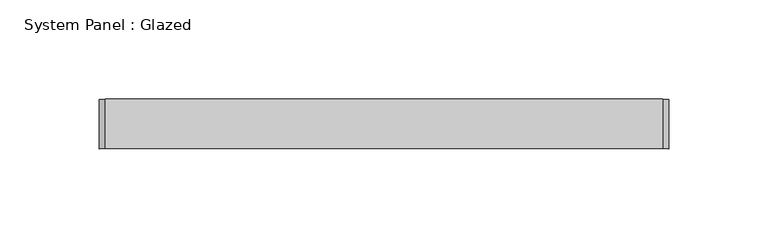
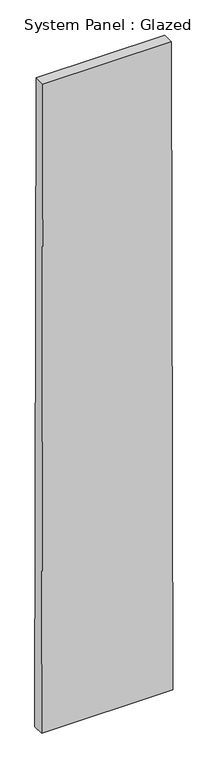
"""IFC4 building model written with IfcOpenShell, lengths in millimetres: plate geometry, System Panel : Glazed."""

from ifc_helpers import new_model, si_unit, frame, origin, place, context, project, spatial, polyline, outline, extrude, source, transform, mapped, element, save


def system_panel_glazed_5e446c14(model_context):
    return source(origin(), model_context, "Body", "SweptSolid", [
        extrude(outline(polyline([(0.0, -143.7537738), (0.0, 143.7537738), (1499.9966104, 140.5649128), (1499.9966104, -140.5649406), (0.0, -143.7537738)])), frame((0.0, -49.5, 0.0), z_axis=(0.0, 1.0, 0.0), x_axis=(0.0, 0.0, 1.0)), (0.0, 0.0, 1.0), 25.0),
    ])


if __name__ == "__main__":
    model = new_model("IFC4")
    model_context = context("Model", 3, world=origin())
    ifc_project = project(units=[si_unit("LENGTHUNIT", "METRE", prefix="MILLI")], contexts=[model_context])
    site = spatial("IfcSite", under=ifc_project)
    building = spatial("IfcBuilding", under=site)
    placement = place(None, origin())
    system_panel_glazed_shape = system_panel_glazed_5e446c14(model_context)
    element("IfcPlate", 1, ObjectType="System Panel : Glazed", at=placement, inside=building, context=model_context, shape_type="MappedRepresentation", body=[
        mapped(system_panel_glazed_shape, transform((0.0, 0.0, 0.0), x_axis=(1.0, 0.0, 0.0), y_axis=(0.0, 1.0, 0.0), z_axis=(0.0, 0.0, 1.0))),
    ])
    save(model, "model.ifc")
